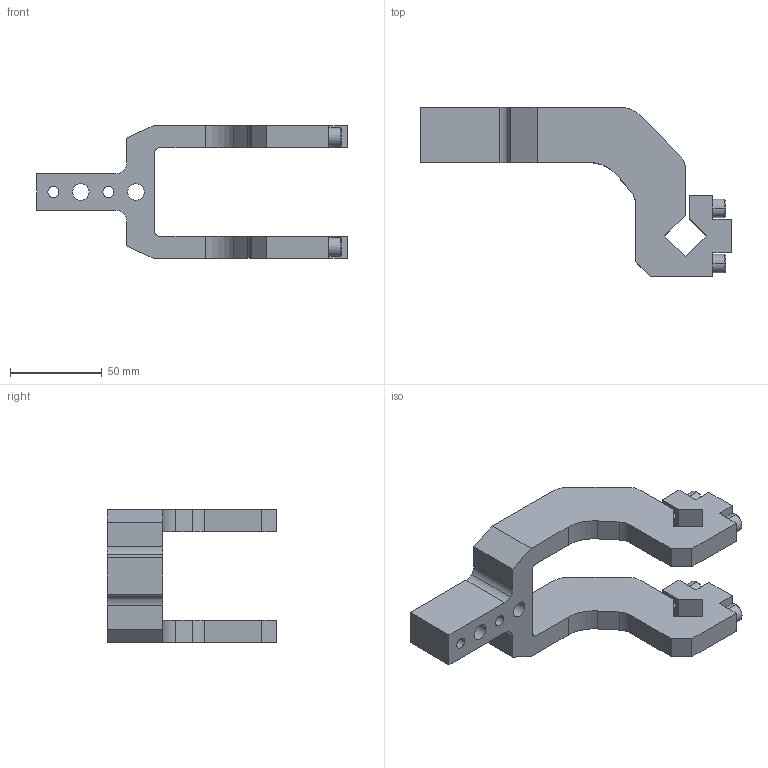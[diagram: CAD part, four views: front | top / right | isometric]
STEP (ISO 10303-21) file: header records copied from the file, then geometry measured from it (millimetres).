
FILE_DESCRIPTION((''),'2;1');
FILE_NAME('S:\Matthew\Step Files\XM Clamp Arms\XJ50-CA-02.stp','2006-06-28T08:09:17',('Matthew'),(''),'Autodesk Inventor 8','Autodesk Inventor 8','');
FILE_SCHEMA(('AUTOMOTIVE_DESIGN { 1 0 10303 214 1 1 1 1 }'));
Length unit declared in the file: millimetre
Products named in the file (1): XJ50-CA-02
Bounding box: 169 x 92 x 72 mm (x, y, z)
Volume: 156631.4 mm3; surface area: 44247.2 mm2
Topology: 1 solids, 3 shells, 152 faces, 392 edges, 252 vertices
Faces by surface type: plane 88, bspline 32, cylinder 24, cone 8
Entity records: 5007 total; most frequent: CARTESIAN_POINT 1333, ORIENTED_EDGE 768, DIRECTION 730, EDGE_CURVE 384, VECTOR 280, LINE 280, VERTEX_POINT 252, AXIS2_PLACEMENT_3D 225
